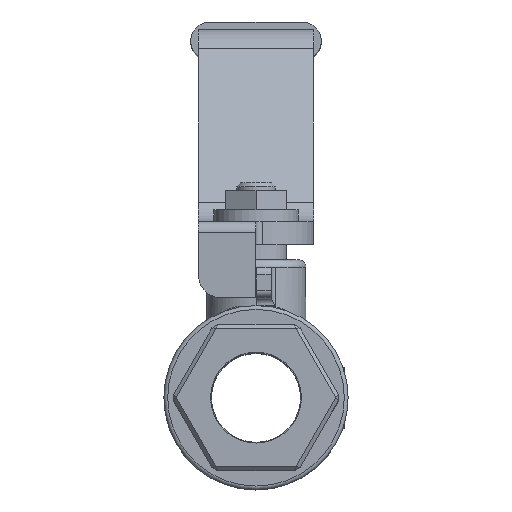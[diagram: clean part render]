
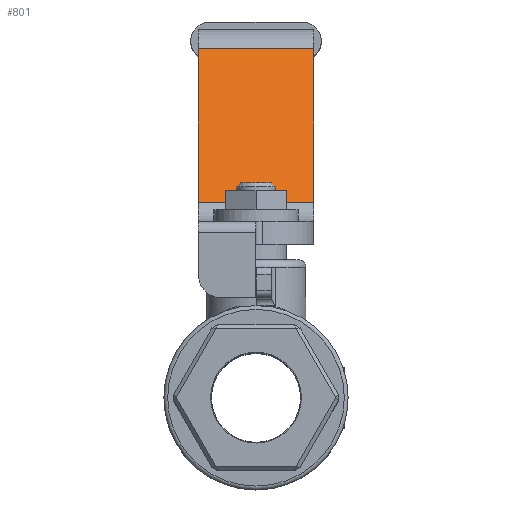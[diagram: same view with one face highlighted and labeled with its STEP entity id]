
A CAD part, top view. The second image highlights one B-rep face of the part: STEP entity #801.
In plain terms, the highlighted planar face has unit normal (0, 0.5, 0.866).
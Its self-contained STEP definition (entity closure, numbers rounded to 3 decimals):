
#801 = ADVANCED_FACE( '', ( #1690 ), #1691, .F. );
#1690 = FACE_OUTER_BOUND( '', #3533, .T. );
#1691 = PLANE( '', #3534 );
#3533 = EDGE_LOOP( '', ( #6200, #6201, #6202, #6203 ) );
#3534 = AXIS2_PLACEMENT_3D( '', #6204, #6205, #6206 );
#6200 = ORIENTED_EDGE( '', *, *, #6812, .T. );
#6201 = ORIENTED_EDGE( '', *, *, #7281, .F. );
#6202 = ORIENTED_EDGE( '', *, *, #6884, .F. );
#6203 = ORIENTED_EDGE( '', *, *, #7208, .T. );
#6204 = CARTESIAN_POINT( '', ( 7.5, 45.5, -41.356 ) );
#6205 = DIRECTION( '', ( 0., -0.5, -0.866 ) );
#6206 = DIRECTION( '', ( 0., 0.866, -0.5 ) );
#6812 = EDGE_CURVE( '', #7857, #7855, #7858, .T. );
#6884 = EDGE_CURVE( '', #7975, #7977, #7978, .T. );
#7208 = EDGE_CURVE( '', #7975, #7857, #8478, .T. );
#7281 = EDGE_CURVE( '', #7977, #7855, #8575, .T. );
#7855 = VERTEX_POINT( '', #9780 );
#7857 = VERTEX_POINT( '', #9782 );
#7858 = LINE( '', #9783, #9784 );
#7975 = VERTEX_POINT( '', #10019 );
#7977 = VERTEX_POINT( '', #10021 );
#7978 = LINE( '', #10022, #10023 );
#8478 = LINE( '', #11667, #11668 );
#8575 = LINE( '', #11929, #11930 );
#9780 = CARTESIAN_POINT( '', ( -7.5, 25.5, -29.809 ) );
#9782 = CARTESIAN_POINT( '', ( -7.5, 45.5, -41.356 ) );
#9783 = CARTESIAN_POINT( '', ( -7.5, 45.5, -41.356 ) );
#9784 = VECTOR( '', #12705, 1000. );
#10019 = CARTESIAN_POINT( '', ( 7.5, 45.5, -41.356 ) );
#10021 = CARTESIAN_POINT( '', ( 7.5, 25.5, -29.809 ) );
#10022 = CARTESIAN_POINT( '', ( 7.5, 45.5, -41.356 ) );
#10023 = VECTOR( '', #12754, 1000. );
#11667 = CARTESIAN_POINT( '', ( 7.5, 45.5, -41.356 ) );
#11668 = VECTOR( '', #12900, 1000. );
#11929 = CARTESIAN_POINT( '', ( 7.5, 25.5, -29.809 ) );
#11930 = VECTOR( '', #12948, 1000. );
#12705 = DIRECTION( '', ( 0., -0.866, 0.5 ) );
#12754 = DIRECTION( '', ( 0., -0.866, 0.5 ) );
#12900 = DIRECTION( '', ( -1., 0., 0. ) );
#12948 = DIRECTION( '', ( -1., 0., 0. ) );
